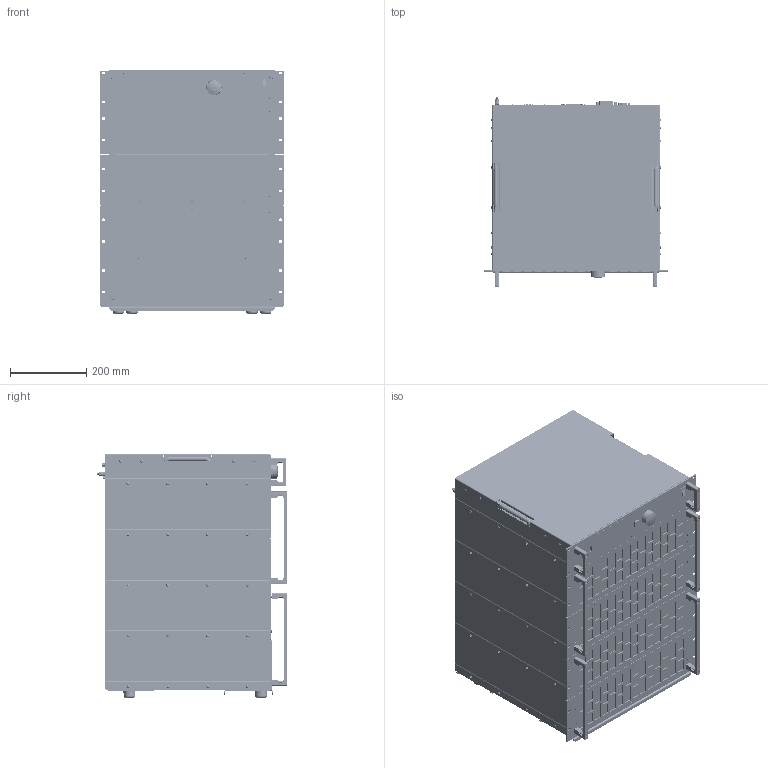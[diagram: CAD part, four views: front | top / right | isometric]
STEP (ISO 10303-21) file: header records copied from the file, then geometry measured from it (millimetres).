
FILE_DESCRIPTION(('STEP AP214'),'1');
FILE_NAME('ACL_M20_19Z_14HE_PH3_10.16_ST76_BRA_3D_01.step','2020-04-21T04:50:01',(' '),(' '),'Spatial InterOp 3D',' ',' ');
FILE_SCHEMA(('AUTOMOTIVE_DESIGN { 1 0 10303 214 1 1 1 1 }'));
Length unit declared in the file: millimetre
Products named in the file (19): *U666; *U667; *U668; *U502; *U503; *U504; *U582; *U583; *U584; *U585; *U586; *U587; *U588; *U589; 2078_ACL_IO Panel_02; 2085_ACL_Rückwand_Steuerteil_Single_Phase_mit_Druck_3D_02; *U620; AutoCreatedBlock_2230
Assembly tree (140 placements, depth 2):
  (unnamed)
    *U666  x8
    *U667  x6
    *U668  x8
    *U502  x24
    *U503  x18
    *U504  x24
    *U582  x2
    *U583
    *U584  x3
    *U585  x2
    *U586  x2
    *U587  x13
    *U588  x16
    *U589  x6
    2078_ACL_IO Panel_02
    2085_ACL_Rückwand_Steuerteil_Single_Phase_mit_Druck_3D_02
    *U620  x4
    AutoCreatedBlock_2230
Bounding box: 482.61 x 498.4 x 639.64 mm (x, y, z)
Volume: 4096779.9 mm3; surface area: 6163619.6 mm2
Topology: 337 solids, 507 shells, 25095 faces, 63180 edges, 39557 vertices
Faces by surface type: plane 12071, cone 8208, cylinder 4076, sphere 304, torus 219, bspline 190, extrusion 27
Entity records: 758750 total; most frequent: CARTESIAN_POINT 139593, DIRECTION 97093, ORIENTED_EDGE 95542, EDGE_CURVE 48107, VECTOR 34591, LINE 34564, AXIS2_PLACEMENT_3D 31251, VERTEX_POINT 30611
